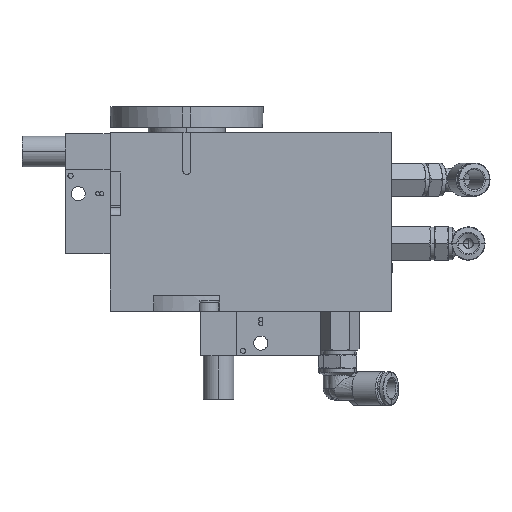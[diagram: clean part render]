
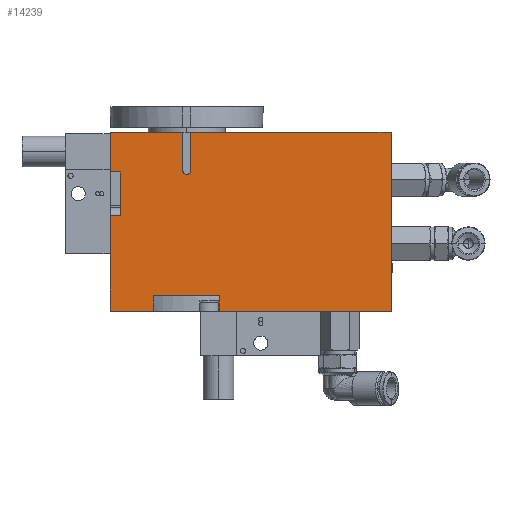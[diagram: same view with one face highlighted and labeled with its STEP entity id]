
A CAD part, left-side view. The second image highlights one B-rep face of the part: STEP entity #14239.
In plain terms, the highlighted free-form (B-spline) face has degree [1, 1] with [2, 2] control points.
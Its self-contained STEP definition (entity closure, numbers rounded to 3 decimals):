
#7501=CARTESIAN_POINT('Vertex',(-30.,-73.063,-75.5)) ;
#7505=CARTESIAN_POINT('Control Point',(-30.,-6.063,-75.5)) ;
#7506=CARTESIAN_POINT('Control Point',(-30.,-73.063,-75.5)) ;
#7507=CARTESIAN_POINT('Vertex',(-30.,-6.063,-75.5)) ;
#11489=CARTESIAN_POINT('Vertex',(-30.,5.437,-5.5)) ;
#11493=CARTESIAN_POINT('Control Point',(-30.,-73.063,-5.5)) ;
#11494=CARTESIAN_POINT('Control Point',(-30.,5.437,-5.5)) ;
#11495=CARTESIAN_POINT('Vertex',(-30.,-73.063,-5.5)) ;
#11531=CARTESIAN_POINT('Vertex',(-30.,36.937,-5.5)) ;
#11535=CARTESIAN_POINT('Control Point',(-30.,8.437,-5.5)) ;
#11536=CARTESIAN_POINT('Control Point',(-30.,36.937,-5.5)) ;
#11537=CARTESIAN_POINT('Vertex',(-30.,8.437,-5.5)) ;
#12966=CARTESIAN_POINT('Control Point',(-30.,-73.063,-5.5)) ;
#12967=CARTESIAN_POINT('Control Point',(-30.,-73.063,-75.5)) ;
#14078=CARTESIAN_POINT('Vertex',(-30.,5.437,-20.5)) ;
#14082=CARTESIAN_POINT('Control Point',(-30.,5.437,-5.5)) ;
#14083=CARTESIAN_POINT('Control Point',(-30.,5.437,-20.5)) ;
#14098=CARTESIAN_POINT('Control Point',(-30.,8.437,-20.5)) ;
#14099=CARTESIAN_POINT('Control Point',(-30.,8.437,-5.5)) ;
#14100=CARTESIAN_POINT('Vertex',(-30.,8.437,-20.5)) ;
#14139=CARTESIAN_POINT('Control Point',(-30.,5.437,-20.5)) ;
#14140=CARTESIAN_POINT('Control Point',(-30.,5.437,-22.)) ;
#14141=CARTESIAN_POINT('Control Point',(-30.,6.937,-22.)) ;
#14142=CARTESIAN_POINT('Control Point',(-30.,8.437,-22.)) ;
#14143=CARTESIAN_POINT('Control Point',(-30.,8.437,-20.5)) ;
#14165=CARTESIAN_POINT('Control Point',(-30.,-73.063,-5.5)) ;
#14166=CARTESIAN_POINT('Control Point',(-30.,-73.063,-75.5)) ;
#14167=CARTESIAN_POINT('Control Point',(-30.,36.937,-5.5)) ;
#14168=CARTESIAN_POINT('Control Point',(-30.,36.937,-75.5)) ;
#14170=CARTESIAN_POINT('Control Point',(-30.,36.937,-5.5)) ;
#14171=CARTESIAN_POINT('Control Point',(-30.,36.937,-21.)) ;
#14172=CARTESIAN_POINT('Vertex',(-30.,36.937,-21.)) ;
#14176=CARTESIAN_POINT('Control Point',(-30.,36.937,-21.)) ;
#14177=CARTESIAN_POINT('Control Point',(-30.,32.937,-21.)) ;
#14178=CARTESIAN_POINT('Vertex',(-30.,32.937,-21.)) ;
#14182=CARTESIAN_POINT('Control Point',(-30.,32.937,-21.)) ;
#14183=CARTESIAN_POINT('Control Point',(-30.,32.937,-38.)) ;
#14184=CARTESIAN_POINT('Vertex',(-30.,32.937,-38.)) ;
#14188=CARTESIAN_POINT('Control Point',(-30.,32.937,-38.)) ;
#14189=CARTESIAN_POINT('Control Point',(-30.,36.937,-38.)) ;
#14190=CARTESIAN_POINT('Vertex',(-30.,36.937,-38.)) ;
#14194=CARTESIAN_POINT('Control Point',(-30.,36.937,-38.)) ;
#14195=CARTESIAN_POINT('Control Point',(-30.,36.937,-75.5)) ;
#14196=CARTESIAN_POINT('Vertex',(-30.,36.937,-75.5)) ;
#14200=CARTESIAN_POINT('Control Point',(-30.,36.937,-75.5)) ;
#14201=CARTESIAN_POINT('Control Point',(-30.,19.937,-75.5)) ;
#14202=CARTESIAN_POINT('Vertex',(-30.,19.937,-75.5)) ;
#14206=CARTESIAN_POINT('Control Point',(-30.,19.937,-75.5)) ;
#14207=CARTESIAN_POINT('Control Point',(-30.,19.937,-69.5)) ;
#14208=CARTESIAN_POINT('Vertex',(-30.,19.937,-69.5)) ;
#14212=CARTESIAN_POINT('Control Point',(-30.,19.937,-69.5)) ;
#14213=CARTESIAN_POINT('Control Point',(-30.,-6.063,-69.5)) ;
#14214=CARTESIAN_POINT('Vertex',(-30.,-6.063,-69.5)) ;
#14218=CARTESIAN_POINT('Control Point',(-30.,-6.063,-69.5)) ;
#14219=CARTESIAN_POINT('Control Point',(-30.,-6.063,-75.5)) ;
#14222=ORIENTED_EDGE('',*,*,#14084,.T.) ;
#14223=ORIENTED_EDGE('',*,*,#14144,.T.) ;
#14224=ORIENTED_EDGE('',*,*,#14102,.T.) ;
#14225=ORIENTED_EDGE('',*,*,#11539,.T.) ;
#14226=ORIENTED_EDGE('',*,*,#14174,.T.) ;
#14227=ORIENTED_EDGE('',*,*,#14180,.T.) ;
#14228=ORIENTED_EDGE('',*,*,#14186,.T.) ;
#14229=ORIENTED_EDGE('',*,*,#14192,.T.) ;
#14230=ORIENTED_EDGE('',*,*,#14198,.T.) ;
#14231=ORIENTED_EDGE('',*,*,#14204,.T.) ;
#14232=ORIENTED_EDGE('',*,*,#14210,.T.) ;
#14233=ORIENTED_EDGE('',*,*,#14216,.T.) ;
#14234=ORIENTED_EDGE('',*,*,#14220,.T.) ;
#14235=ORIENTED_EDGE('',*,*,#7509,.T.) ;
#14236=ORIENTED_EDGE('',*,*,#12968,.F.) ;
#14237=ORIENTED_EDGE('',*,*,#11497,.T.) ;
#14239=ADVANCED_FACE('360872 - Geh_use RT4-10_31072012.1\\Volumenk\X2\00F6\X0\rper1',(#14238),#14164,.T.) ;
#7504=B_SPLINE_CURVE_WITH_KNOTS('',1,(#7505,#7506),.UNSPECIFIED.,.F.,.U.,(2,2),(-1.15,5.55),.UNSPECIFIED.) ;
#11492=B_SPLINE_CURVE_WITH_KNOTS('',1,(#11493,#11494),.UNSPECIFIED.,.F.,.U.,(2,2),(-11.,-3.15),.UNSPECIFIED.) ;
#11534=B_SPLINE_CURVE_WITH_KNOTS('',1,(#11535,#11536),.UNSPECIFIED.,.F.,.U.,(2,2),(-2.85,0.),.UNSPECIFIED.) ;
#12965=B_SPLINE_CURVE_WITH_KNOTS('',1,(#12966,#12967),.UNSPECIFIED.,.F.,.U.,(2,2),(-4.,3.),.UNSPECIFIED.) ;
#14081=B_SPLINE_CURVE_WITH_KNOTS('',1,(#14082,#14083),.UNSPECIFIED.,.F.,.U.,(2,2),(-2.625,-1.125),.UNSPECIFIED.) ;
#14097=B_SPLINE_CURVE_WITH_KNOTS('',1,(#14098,#14099),.UNSPECIFIED.,.F.,.U.,(2,2),(-0.175,1.325),.UNSPECIFIED.) ;
#14169=B_SPLINE_CURVE_WITH_KNOTS('',1,(#14170,#14171),.UNSPECIFIED.,.F.,.U.,(2,2),(-4.65,-3.1),.UNSPECIFIED.) ;
#14175=B_SPLINE_CURVE_WITH_KNOTS('',1,(#14176,#14177),.UNSPECIFIED.,.F.,.U.,(2,2),(-2.7,-2.3),.UNSPECIFIED.) ;
#14181=B_SPLINE_CURVE_WITH_KNOTS('',1,(#14182,#14183),.UNSPECIFIED.,.F.,.U.,(2,2),(-1.498,0.202),.UNSPECIFIED.) ;
#14187=B_SPLINE_CURVE_WITH_KNOTS('',1,(#14188,#14189),.UNSPECIFIED.,.F.,.U.,(2,2),(2.3,2.7),.UNSPECIFIED.) ;
#14193=B_SPLINE_CURVE_WITH_KNOTS('',1,(#14194,#14195),.UNSPECIFIED.,.F.,.U.,(2,2),(-1.4,2.35),.UNSPECIFIED.) ;
#14199=B_SPLINE_CURVE_WITH_KNOTS('',1,(#14200,#14201),.UNSPECIFIED.,.F.,.U.,(2,2),(-5.45,-3.75),.UNSPECIFIED.) ;
#14205=B_SPLINE_CURVE_WITH_KNOTS('',1,(#14206,#14207),.UNSPECIFIED.,.F.,.U.,(2,2),(-1.625,-1.025),.UNSPECIFIED.) ;
#14211=B_SPLINE_CURVE_WITH_KNOTS('',1,(#14212,#14213),.UNSPECIFIED.,.F.,.U.,(2,2),(-1.806,0.794),.UNSPECIFIED.) ;
#14217=B_SPLINE_CURVE_WITH_KNOTS('',1,(#14218,#14219),.UNSPECIFIED.,.F.,.U.,(2,2),(1.025,1.625),.UNSPECIFIED.) ;
#14164=B_SPLINE_SURFACE_WITH_KNOTS('',1,1,((#14165,#14166),(#14167,#14168)),.UNSPECIFIED.,.F.,.F.,.U.,(2,2),(2,2),(0.,11.),(0.,7.),.UNSPECIFIED.) ;
#7509=EDGE_CURVE('',#7508,#7502,#7504,.T.) ;
#11497=EDGE_CURVE('',#11496,#11490,#11492,.T.) ;
#11539=EDGE_CURVE('',#11538,#11532,#11534,.T.) ;
#12968=EDGE_CURVE('',#11496,#7502,#12965,.T.) ;
#14084=EDGE_CURVE('',#11490,#14079,#14081,.T.) ;
#14102=EDGE_CURVE('',#14101,#11538,#14097,.T.) ;
#14144=EDGE_CURVE('',#14079,#14101,#14138,.T.) ;
#14174=EDGE_CURVE('',#11532,#14173,#14169,.T.) ;
#14180=EDGE_CURVE('',#14173,#14179,#14175,.T.) ;
#14186=EDGE_CURVE('',#14179,#14185,#14181,.T.) ;
#14192=EDGE_CURVE('',#14185,#14191,#14187,.T.) ;
#14198=EDGE_CURVE('',#14191,#14197,#14193,.T.) ;
#14204=EDGE_CURVE('',#14197,#14203,#14199,.T.) ;
#14210=EDGE_CURVE('',#14203,#14209,#14205,.T.) ;
#14216=EDGE_CURVE('',#14209,#14215,#14211,.T.) ;
#14220=EDGE_CURVE('',#14215,#7508,#14217,.T.) ;
#14221=EDGE_LOOP('',(#14222,#14223,#14224,#14225,#14226,#14227,#14228,#14229,#14230,#14231,#14232,#14233,#14234,#14235,#14236,#14237)) ;
#14238=FACE_OUTER_BOUND('',#14221,.T.) ;
#7502=VERTEX_POINT('',#7501) ;
#7508=VERTEX_POINT('',#7507) ;
#11490=VERTEX_POINT('',#11489) ;
#11496=VERTEX_POINT('',#11495) ;
#11532=VERTEX_POINT('',#11531) ;
#11538=VERTEX_POINT('',#11537) ;
#14079=VERTEX_POINT('',#14078) ;
#14101=VERTEX_POINT('',#14100) ;
#14173=VERTEX_POINT('',#14172) ;
#14179=VERTEX_POINT('',#14178) ;
#14185=VERTEX_POINT('',#14184) ;
#14191=VERTEX_POINT('',#14190) ;
#14197=VERTEX_POINT('',#14196) ;
#14203=VERTEX_POINT('',#14202) ;
#14209=VERTEX_POINT('',#14208) ;
#14215=VERTEX_POINT('',#14214) ;
#14138=(BOUNDED_CURVE()B_SPLINE_CURVE(2,(#14139,#14140,#14141,#14142,#14143),.UNSPECIFIED.,.F.,.U.)B_SPLINE_CURVE_WITH_KNOTS((3,2,3),(-3.142,-1.571,0.),.UNSPECIFIED.)CURVE()GEOMETRIC_REPRESENTATION_ITEM()RATIONAL_B_SPLINE_CURVE((1.,0.707,1.,0.707,1.))REPRESENTATION_ITEM('')) ;
